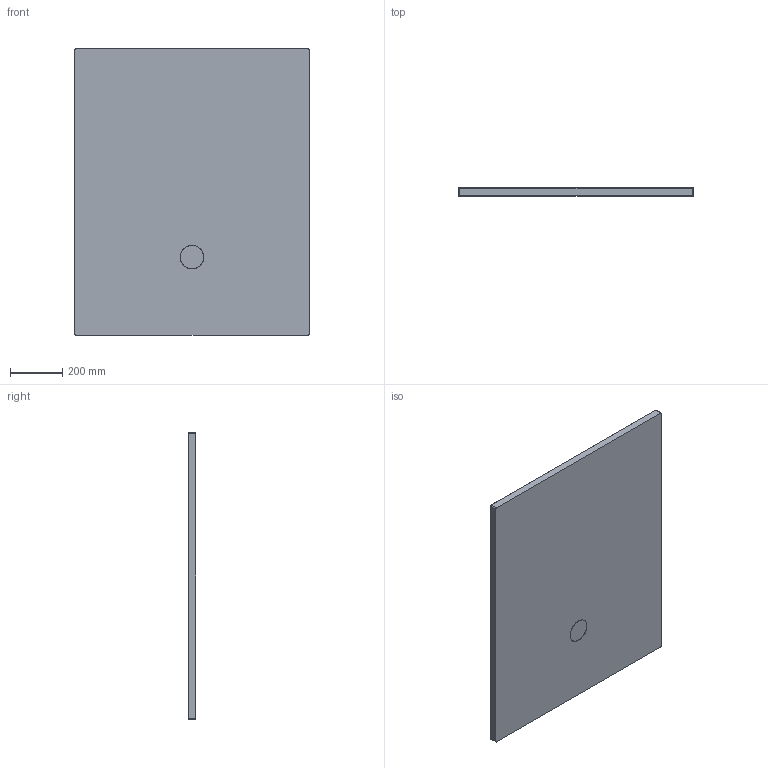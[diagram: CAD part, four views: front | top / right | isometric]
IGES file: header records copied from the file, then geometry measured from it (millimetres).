
Start section: SolidWorks IGES file using analytic representation for surfaces
Global section: file name: D:\Users\M.Szymanski\Desktop\Brodziki\Nias\B_M_NIAS_110x90x1,5.IGS; native system: SolidWorks 2011; preprocessor: SolidWorks 2011; author: M.Szymanski; date: 180222.141857; units: millimetre
Bounding box: 900 x 30 x 1100 mm (x, y, z)
Surface area: 2119376.5 mm2 (no closed solid volume)
Topology: 0 solids, 0 shells, 45 faces, 649 edges, 648 vertices
Faces by surface type: bspline 25, revolution 20
